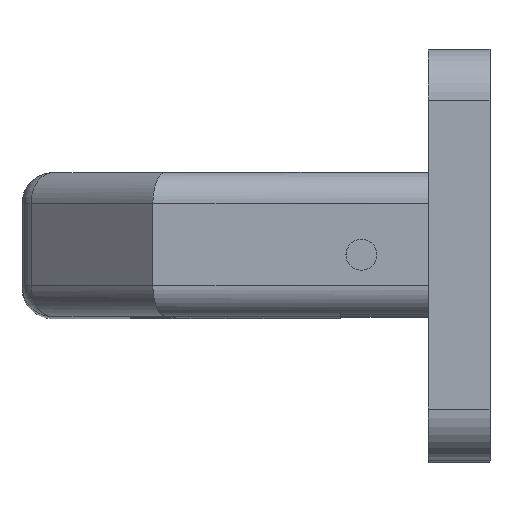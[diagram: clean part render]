
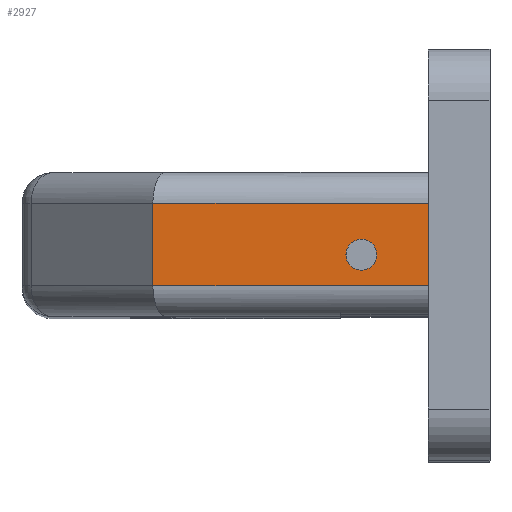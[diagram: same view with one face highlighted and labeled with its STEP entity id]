
A CAD part, top view. The second image highlights one B-rep face of the part: STEP entity #2927.
In plain terms, the highlighted planar face has unit normal (0, 0, 1).
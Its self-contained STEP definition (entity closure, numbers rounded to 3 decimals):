
#56 = EDGE_CURVE ( 'NONE', #2351, #1641, #2987, .T. ) ;
#64 = CIRCLE ( 'NONE', #524, 1.5 ) ;
#110 = DIRECTION ( 'NONE',  ( 0., 0., 1. ) ) ;
#159 = FACE_BOUND ( 'NONE', #1398, .T. ) ;
#196 = DIRECTION ( 'NONE',  ( -1., 0., 0. ) ) ;
#204 = FACE_OUTER_BOUND ( 'NONE', #1250, .T. ) ;
#229 = VERTEX_POINT ( 'NONE', #632 ) ;
#252 = CARTESIAN_POINT ( 'NONE',  ( 0., 3., 71. ) ) ;
#285 = VECTOR ( 'NONE', #550, 1000. ) ;
#296 = CARTESIAN_POINT ( 'NONE',  ( -26.772, 3., 71. ) ) ;
#396 = DIRECTION ( 'NONE',  ( -1., 0., 0. ) ) ;
#407 = VERTEX_POINT ( 'NONE', #670 ) ;
#505 = ORIENTED_EDGE ( 'NONE', *, *, #1021, .T. ) ;
#511 = DIRECTION ( 'NONE',  ( 0., 0., 1. ) ) ;
#524 = AXIS2_PLACEMENT_3D ( 'NONE', #1441, #511, #2964 ) ;
#550 = DIRECTION ( 'NONE',  ( 1., 0., 0. ) ) ;
#564 = DIRECTION ( 'NONE',  ( 0., -1., 0. ) ) ;
#632 = CARTESIAN_POINT ( 'NONE',  ( -26.772, 11., 71. ) ) ;
#670 = CARTESIAN_POINT ( 'NONE',  ( -5., 6., 71. ) ) ;
#680 = VERTEX_POINT ( 'NONE', #1372 ) ;
#933 = PLANE ( 'NONE',  #1296 ) ;
#993 = EDGE_CURVE ( 'NONE', #1925, #229, #1652, .T. ) ;
#1021 = EDGE_CURVE ( 'NONE', #229, #2351, #1790, .T. ) ;
#1095 = CARTESIAN_POINT ( 'NONE',  ( -26.772, 14., 71. ) ) ;
#1097 = ORIENTED_EDGE ( 'NONE', *, *, #2367, .F. ) ;
#1228 = LINE ( 'NONE', #2667, #2769 ) ;
#1250 = EDGE_LOOP ( 'NONE', ( #1097, #1793, #505, #2245 ) ) ;
#1296 = AXIS2_PLACEMENT_3D ( 'NONE', #2615, #2651, #396 ) ;
#1372 = CARTESIAN_POINT ( 'NONE',  ( -8., 6., 71. ) ) ;
#1398 = EDGE_LOOP ( 'NONE', ( #3058, #2068 ) ) ;
#1441 = CARTESIAN_POINT ( 'NONE',  ( -6.5, 6., 71. ) ) ;
#1491 = EDGE_CURVE ( 'NONE', #407, #680, #2701, .T. ) ;
#1641 = VERTEX_POINT ( 'NONE', #252 ) ;
#1652 = LINE ( 'NONE', #2635, #1716 ) ;
#1716 = VECTOR ( 'NONE', #196, 1000. ) ;
#1790 = LINE ( 'NONE', #1095, #2060 ) ;
#1793 = ORIENTED_EDGE ( 'NONE', *, *, #993, .T. ) ;
#1800 = DIRECTION ( 'NONE',  ( 1., 0., 0. ) ) ;
#1925 = VERTEX_POINT ( 'NONE', #2424 ) ;
#2060 = VECTOR ( 'NONE', #564, 1000. ) ;
#2068 = ORIENTED_EDGE ( 'NONE', *, *, #2490, .F. ) ;
#2194 = DIRECTION ( 'NONE',  ( 0., -1., 0. ) ) ;
#2245 = ORIENTED_EDGE ( 'NONE', *, *, #56, .T. ) ;
#2351 = VERTEX_POINT ( 'NONE', #2908 ) ;
#2367 = EDGE_CURVE ( 'NONE', #1925, #1641, #1228, .T. ) ;
#2424 = CARTESIAN_POINT ( 'NONE',  ( 0., 11., 71. ) ) ;
#2490 = EDGE_CURVE ( 'NONE', #680, #407, #64, .T. ) ;
#2615 = CARTESIAN_POINT ( 'NONE',  ( -26.772, 14., 71. ) ) ;
#2635 = CARTESIAN_POINT ( 'NONE',  ( -26.772, 11., 71. ) ) ;
#2651 = DIRECTION ( 'NONE',  ( 0., 0., -1. ) ) ;
#2657 = AXIS2_PLACEMENT_3D ( 'NONE', #3047, #110, #1800 ) ;
#2667 = CARTESIAN_POINT ( 'NONE',  ( 0., 14., 71. ) ) ;
#2701 = CIRCLE ( 'NONE', #2657, 1.5 ) ;
#2769 = VECTOR ( 'NONE', #2194, 1000. ) ;
#2908 = CARTESIAN_POINT ( 'NONE',  ( -26.772, 3., 71. ) ) ;
#2927 = ADVANCED_FACE ( 'NONE', ( #159, #204 ), #933, .F. ) ;
#2964 = DIRECTION ( 'NONE',  ( 1., 0., 0. ) ) ;
#2987 = LINE ( 'NONE', #296, #285 ) ;
#3047 = CARTESIAN_POINT ( 'NONE',  ( -6.5, 6., 71. ) ) ;
#3058 = ORIENTED_EDGE ( 'NONE', *, *, #1491, .F. ) ;
